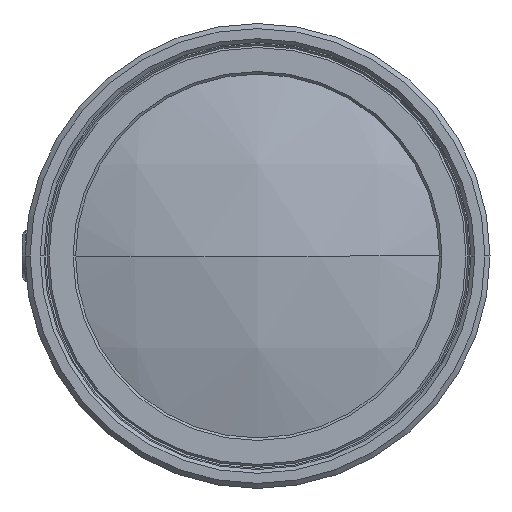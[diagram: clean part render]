
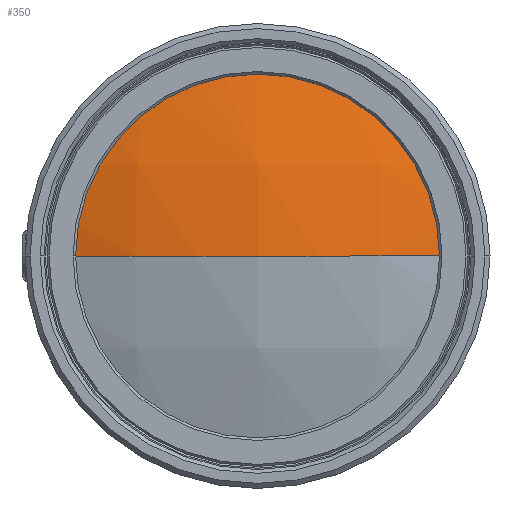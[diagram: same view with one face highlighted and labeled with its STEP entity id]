
A CAD part, left-side view. The second image highlights one B-rep face of the part: STEP entity #350.
In plain terms, the highlighted spherical face has radius 56.6 mm.
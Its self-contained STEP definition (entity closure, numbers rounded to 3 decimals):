
#262 = ORIENTED_EDGE ( 'NONE', *, *, #2789, .F. ) ;
#350 = ADVANCED_FACE ( 'NONE', ( #1601 ), #1044, .T. ) ;
#408 = CIRCLE ( 'NONE', #1257, 18. ) ;
#412 = CARTESIAN_POINT ( 'NONE',  ( -154.4, 0., 0. ) ) ;
#608 = CARTESIAN_POINT ( 'NONE',  ( -211., 0., 0. ) ) ;
#669 = VERTEX_POINT ( 'NONE', #1201 ) ;
#944 = CIRCLE ( 'NONE', #1538, 56.6 ) ;
#976 = AXIS2_PLACEMENT_3D ( 'NONE', #2202, #1991, #1522 ) ;
#1044 = SPHERICAL_SURFACE ( 'NONE', #2268, 56.6 ) ;
#1149 = DIRECTION ( 'NONE',  ( 0., 1., 0. ) ) ;
#1188 = EDGE_CURVE ( 'NONE', #2532, #669, #2041, .T. ) ;
#1201 = CARTESIAN_POINT ( 'NONE',  ( -208.062, -18., 0. ) ) ;
#1257 = AXIS2_PLACEMENT_3D ( 'NONE', #1821, #2490, #1149 ) ;
#1460 = DIRECTION ( 'NONE',  ( -1., 0., 0. ) ) ;
#1522 = DIRECTION ( 'NONE',  ( 0., -1., 0. ) ) ;
#1538 = AXIS2_PLACEMENT_3D ( 'NONE', #2353, #2792, #1460 ) ;
#1547 = EDGE_CURVE ( 'NONE', #2532, #2848, #944, .T. ) ;
#1601 = FACE_OUTER_BOUND ( 'NONE', #1684, .T. ) ;
#1684 = EDGE_LOOP ( 'NONE', ( #2491, #2405, #262 ) ) ;
#1821 = CARTESIAN_POINT ( 'NONE',  ( -208.062, 0., 0. ) ) ;
#1990 = DIRECTION ( 'NONE',  ( 0., 1., 0. ) ) ;
#1991 = DIRECTION ( 'NONE',  ( 0., 0., 1. ) ) ;
#2041 = CIRCLE ( 'NONE', #976, 56.6 ) ;
#2092 = CARTESIAN_POINT ( 'NONE',  ( -208.062, 18., 0. ) ) ;
#2202 = CARTESIAN_POINT ( 'NONE',  ( -154.4, 0., 0. ) ) ;
#2268 = AXIS2_PLACEMENT_3D ( 'NONE', #412, #2845, #1990 ) ;
#2353 = CARTESIAN_POINT ( 'NONE',  ( -154.4, 0., 0. ) ) ;
#2405 = ORIENTED_EDGE ( 'NONE', *, *, #1188, .T. ) ;
#2490 = DIRECTION ( 'NONE',  ( 1., 0., 0. ) ) ;
#2491 = ORIENTED_EDGE ( 'NONE', *, *, #1547, .F. ) ;
#2532 = VERTEX_POINT ( 'NONE', #608 ) ;
#2789 = EDGE_CURVE ( 'NONE', #2848, #669, #408, .T. ) ;
#2792 = DIRECTION ( 'NONE',  ( 0., 0., -1. ) ) ;
#2845 = DIRECTION ( 'NONE',  ( 0., 0., 1. ) ) ;
#2848 = VERTEX_POINT ( 'NONE', #2092 ) ;
